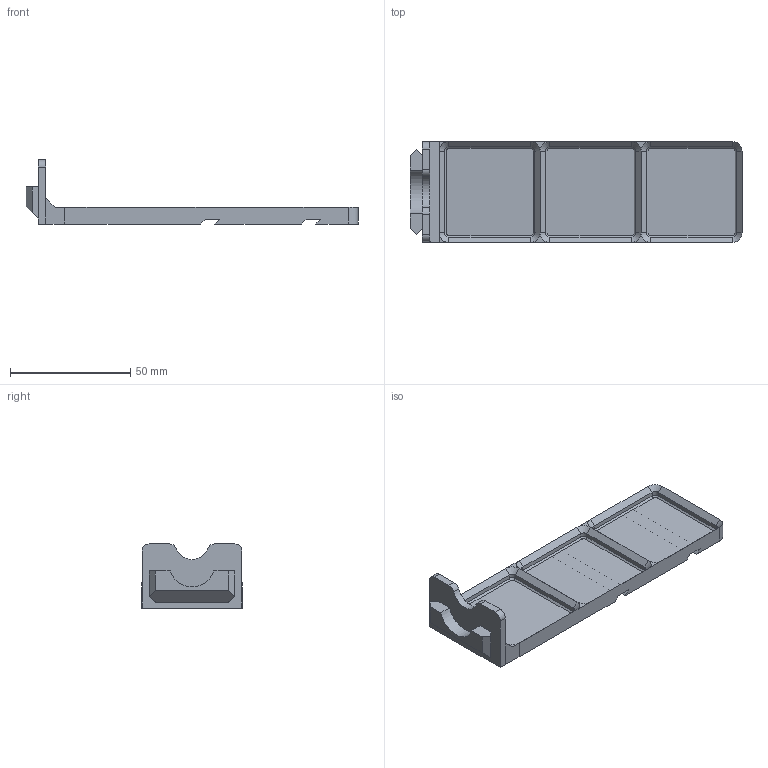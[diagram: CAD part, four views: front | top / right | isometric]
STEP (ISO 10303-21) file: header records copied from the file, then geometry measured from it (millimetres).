
FILE_DESCRIPTION(/* description */ ('','CAx-IF Rec.Pracs.---Representation and Presentation of Product Manufacturing Information (PMI)---4.0---2014-10-13'),/* implementation_level */ '2;1');
FILE_NAME(/* name */ 'Goews 1x Hanger Gridfinity 1x3 Base.step',/* time_stamp */ '2024-11-29T16:30:19-05:00',/* author */ (''),/* organization */ (''),/* preprocessor_version */ 'ST-DEVELOPER v20',/* originating_system */ 'Autodesk Translation Framework v13.20.0.188',/* authorisation */ '');
FILE_SCHEMA (('AP242_MANAGED_MODEL_BASED_3D_ENGINEERING_MIM_LF { 1 0 10303 442 1 1 4 }'));
Length unit declared in the file: millimetre
Products named in the file (1): Goews Triple Hanger Gridfinity 1x2 Base
Bounding box: 138.15 x 42 x 26.72 mm (x, y, z)
Volume: 21241.9 mm3; surface area: 17313.4 mm2
Topology: 1 solids, 1 shells, 132 faces, 305 edges, 176 vertices
Faces by surface type: plane 78, cylinder 30, cone 24
Entity records: 3660 total; most frequent: DIRECTION 645, CARTESIAN_POINT 614, ORIENTED_EDGE 610, EDGE_CURVE 305, LINE 231, VECTOR 231, AXIS2_PLACEMENT_3D 207, VERTEX_POINT 176
